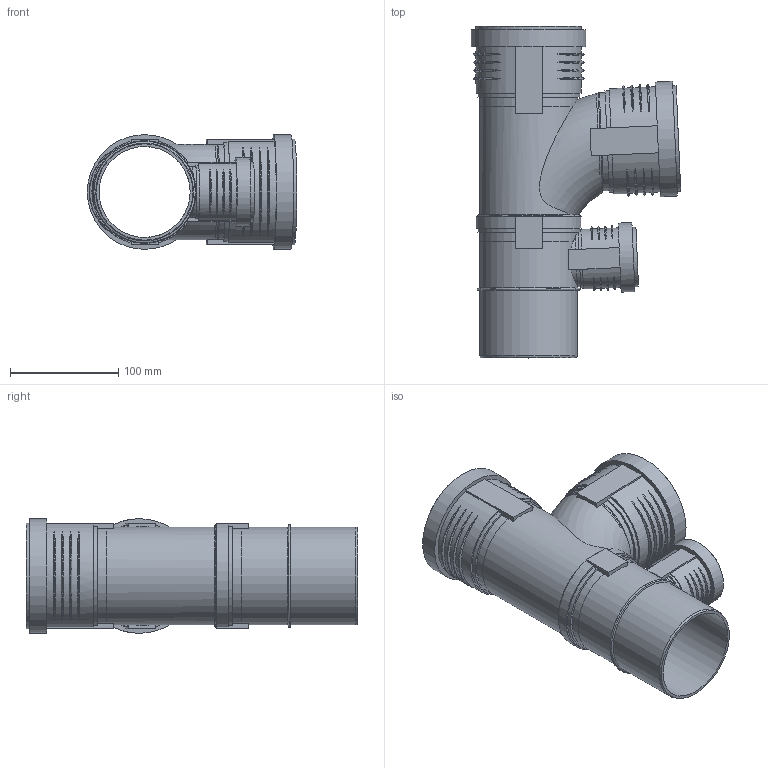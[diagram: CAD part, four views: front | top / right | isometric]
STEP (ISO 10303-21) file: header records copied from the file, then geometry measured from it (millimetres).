
FILE_DESCRIPTION(/* description */ (''),/* implementation_level */ '2;1');
FILE_NAME(/* name */ 'Z:\Geberit\Export\Export18\Kombiabzweig PP-MD_Iassembly\stp\390456.stp',/* time_stamp */ '2014-08-26T20:01:12+02:00',/* author */ ('ML'),/* organization */ (''),/* preprocessor_version */ 'ST-DEVELOPER v15.2',/* originating_system */ 'Autodesk Inventor 2014',/* authorisation */ '');
FILE_SCHEMA (('AUTOMOTIVE_DESIGN { 1 0 10303 214 3 1 1 }'));
Length unit declared in the file: millimetre
Products named in the file (11): 861356; 861401; 861403; 861744; 861358; 861403_1; 861745; 861743; 390456
Bounding box: 193.16 x 306 x 105.8 mm (x, y, z)
Volume: 427855.4 mm3; surface area: 297560.5 mm2
Topology: 6 solids, 6 shells, 220 faces, 539 edges, 370 vertices
Faces by surface type: torus 79, plane 77, cylinder 58, cone 6
Full cylindrical faces by diameter (mm): 46.15 x2, 50.15 x2, 51 x2, 55 x1, 59.7 x1, 63.7 x1, 84 x3, 84.2 x3, 90.2 x8, 91.2 x5, 97.2 x2, 99.8 x2, 105.8 x2
Entity records: 6564 total; most frequent: CARTESIAN_POINT 2606, DIRECTION 742, ORIENTED_EDGE 694, EDGE_CURVE 347, AXIS2_PLACEMENT_3D 317, VERTEX_POINT 259, EDGE_LOOP 246, STYLED_ITEM 168
